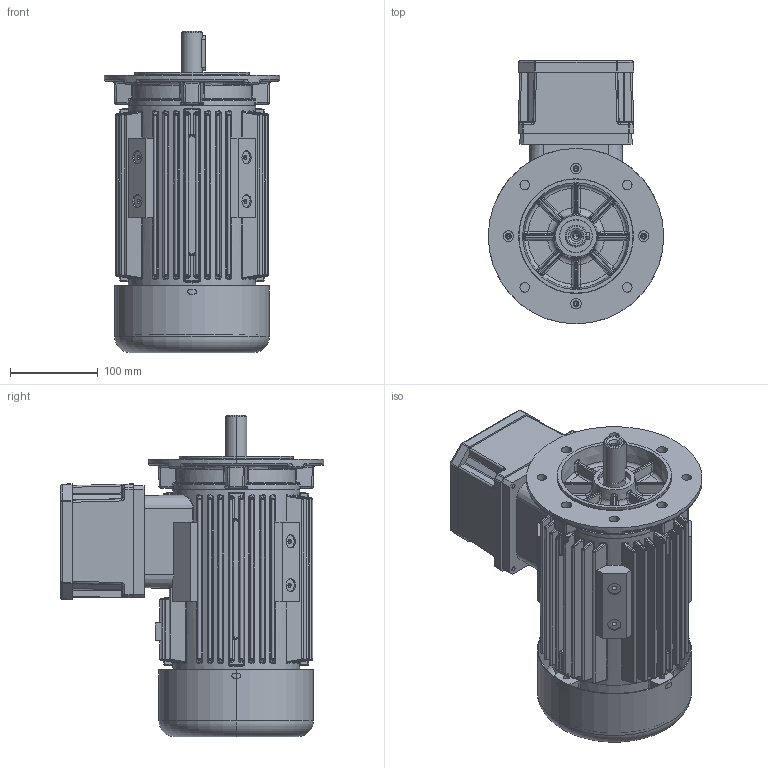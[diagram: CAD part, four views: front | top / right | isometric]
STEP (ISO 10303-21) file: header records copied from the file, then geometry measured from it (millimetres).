
FILE_DESCRIPTION (( 'STEP AP214' ), '1' );
FILE_NAME ('7AT 90 Exd config.STEP', '2018-05-11T06:03:28', ( '' ), ( '' ), 'SwSTEP 2.0', 'SolidWorks 2017', '' );
FILE_SCHEMA (( 'AUTOMOTIVE_DESIGN' ));
Length unit declared in the file: millimetre
Products named in the file (1): 7AT 90 Exd config
Bounding box: 199.9 x 300.55 x 366 mm (x, y, z)
Volume: 3074263 mm3; surface area: 917168 mm2
Topology: 11 solids, 11 shells, 3360 faces, 8084 edges, 4757 vertices
Faces by surface type: plane 1123, bspline 927, cylinder 915, torus 201, cone 128, sphere 66
Entity records: 166026 total; most frequent: CARTESIAN_POINT 65107, ORIENTED_EDGE 15728, DIRECTION 12849, EDGE_CURVE 7864, VERTEX_POINT 4759, AXIS2_PLACEMENT_3D 4752, EDGE_LOOP 3677, ADVANCED_FACE 3360
